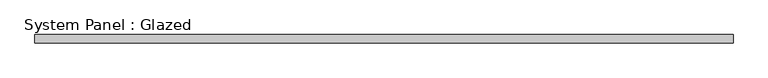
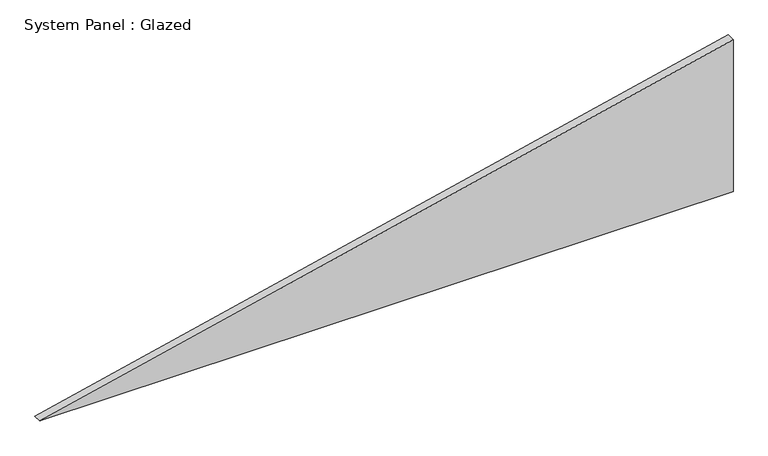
"""IFC4 building model written with IfcOpenShell, lengths in millimetres: plate geometry, System Panel : Glazed."""

from ifc_helpers import new_model, si_unit, frame, origin, place, context, project, spatial, polyline, outline, extrude, source, transform, mapped, element, save


def system_panel_glazed_5a60ba6b(model_context):
    return source(origin(), model_context, "Body", "SweptSolid", [
        extrude(outline(polyline([(0.0, -1052.5796618), (0.0, 1052.5796618), (488.0484754, 1052.5796618), (0.0, -1052.5796618)])), frame((0.0, 19.05, 0.0), z_axis=(0.0, 1.0, 0.0), x_axis=(0.0, 0.0, 1.0)), (0.0, 0.0, 1.0), 25.4),
    ])


if __name__ == "__main__":
    model = new_model("IFC4")
    model_context = context("Model", 3, world=origin())
    ifc_project = project(units=[si_unit("LENGTHUNIT", "METRE", prefix="MILLI")], contexts=[model_context])
    site = spatial("IfcSite", under=ifc_project)
    building = spatial("IfcBuilding", under=site)
    placement = place(None, origin())
    system_panel_glazed_shape = system_panel_glazed_5a60ba6b(model_context)
    element("IfcPlate", 1, ObjectType="System Panel : Glazed", at=placement, inside=building, context=model_context, shape_type="MappedRepresentation", body=[
        mapped(system_panel_glazed_shape, transform((0.0, 0.0, 0.0), x_axis=(1.0, 0.0, 0.0), y_axis=(0.0, 1.0, 0.0), z_axis=(0.0, 0.0, 1.0))),
    ])
    save(model, "model.ifc")
